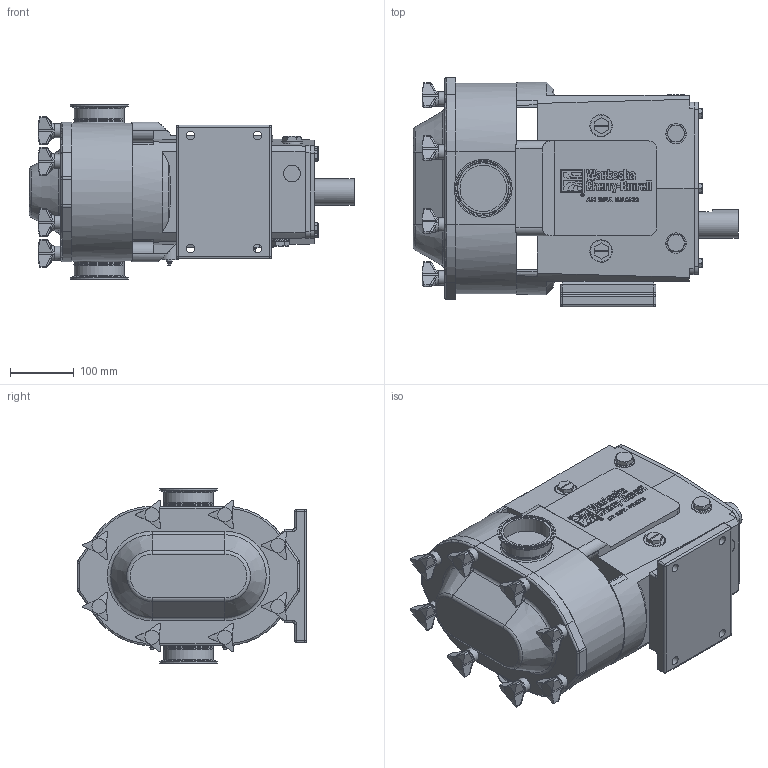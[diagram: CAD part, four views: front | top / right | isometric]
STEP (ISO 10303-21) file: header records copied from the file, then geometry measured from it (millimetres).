
FILE_DESCRIPTION(/* description */ (''),/* implementation_level */ '2;1');
FILE_NAME(/* name */ 'u1 130 lower shaft.stp',/* time_stamp */ '2024-10-01T16:49:41-05:00',/* author */ ('HWNME6'),/* organization */ (''),/* preprocessor_version */ 'ST-DEVELOPER v19.2',/* originating_system */ 'Autodesk Inventor 2023',/* authorisation */ '');
FILE_SCHEMA (('CONFIG_CONTROL_DESIGN'));
Products named in the file (1): 130u1 upper lower_Simplify_2
Bounding box: 510.26 x 360.3 x 274.17 mm (x, y, z)
Volume: 21928557.7 mm3; surface area: 730418 mm2
Topology: 1 solids, 1 shells, 1255 faces, 3192 edges, 1954 vertices
Faces by surface type: plane 647, bspline 279, cylinder 164, cone 107, torus 50, sphere 8
Full cylindrical faces by diameter (mm): 9.525 x4, 13.495 x4, 22.352 x8, 25.5 x4, 31.75 x4, 33.274 x2, 35.052 x2, 41.275 x1, 72.898 x2, 78.461 x4, 79.477 x2, 90.907 x2
Entity records: 46598 total; most frequent: CARTESIAN_POINT 19079, ORIENTED_EDGE 6224, DIRECTION 4889, EDGE_CURVE 3112, VERTEX_POINT 1954, LINE 1705, VECTOR 1705, AXIS2_PLACEMENT_3D 1592
